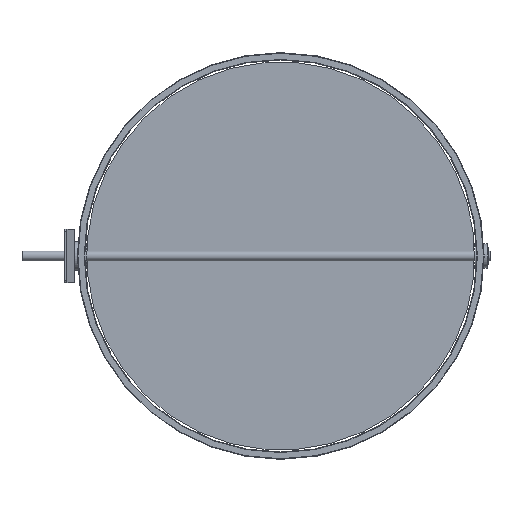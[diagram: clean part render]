
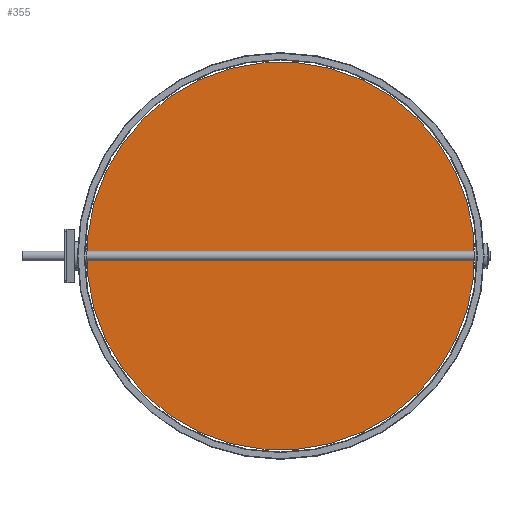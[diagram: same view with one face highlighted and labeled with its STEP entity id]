
A CAD part, left-side view. The second image highlights one B-rep face of the part: STEP entity #355.
In plain terms, the highlighted planar face has unit normal (-1, 0, 0).
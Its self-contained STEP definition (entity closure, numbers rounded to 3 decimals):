
#137=FACE_BOUND('',#507,.T.);
#138=FACE_BOUND('',#508,.T.);
#139=FACE_BOUND('',#509,.T.);
#140=FACE_BOUND('',#510,.T.);
#141=FACE_BOUND('',#511,.T.);
#142=FACE_BOUND('',#512,.T.);
#143=FACE_BOUND('',#513,.T.);
#144=FACE_BOUND('',#514,.T.);
#273=CIRCLE('',#1200,396.);
#274=CIRCLE('',#1203,4.05);
#276=CIRCLE('',#1206,4.05);
#278=CIRCLE('',#1209,4.05);
#280=CIRCLE('',#1212,4.05);
#282=CIRCLE('',#1215,4.05);
#284=CIRCLE('',#1218,4.05);
#287=CIRCLE('',#1222,396.);
#288=CIRCLE('',#1224,4.05);
#355=ADVANCED_FACE('',(#137,#138,#139,#140,#141,#142,#143,#144),#425,.T.);
#425=PLANE('',#1227);
#507=EDGE_LOOP('',(#663,#664,#665,#666));
#508=EDGE_LOOP('',(#667));
#509=EDGE_LOOP('',(#668));
#510=EDGE_LOOP('',(#669));
#511=EDGE_LOOP('',(#670));
#512=EDGE_LOOP('',(#671));
#513=EDGE_LOOP('',(#672));
#514=EDGE_LOOP('',(#673));
#663=ORIENTED_EDGE('',*,*,#1000,.T.);
#664=ORIENTED_EDGE('',*,*,#979,.T.);
#665=ORIENTED_EDGE('',*,*,#983,.T.);
#666=ORIENTED_EDGE('',*,*,#986,.T.);
#667=ORIENTED_EDGE('',*,*,#997,.T.);
#668=ORIENTED_EDGE('',*,*,#995,.F.);
#669=ORIENTED_EDGE('',*,*,#993,.F.);
#670=ORIENTED_EDGE('',*,*,#991,.F.);
#671=ORIENTED_EDGE('',*,*,#989,.F.);
#672=ORIENTED_EDGE('',*,*,#987,.F.);
#673=ORIENTED_EDGE('',*,*,#1001,.F.);
#883=VERTEX_POINT('',#1706);
#884=VERTEX_POINT('',#1708);
#886=VERTEX_POINT('',#1714);
#888=VERTEX_POINT('',#1720);
#889=VERTEX_POINT('',#1724);
#891=VERTEX_POINT('',#1729);
#893=VERTEX_POINT('',#1734);
#895=VERTEX_POINT('',#1739);
#897=VERTEX_POINT('',#1744);
#899=VERTEX_POINT('',#1749);
#901=VERTEX_POINT('',#1757);
#979=EDGE_CURVE('',#884,#883,#1103,.T.);
#983=EDGE_CURVE('',#883,#886,#273,.T.);
#986=EDGE_CURVE('',#886,#888,#1108,.T.);
#987=EDGE_CURVE('',#889,#889,#274,.T.);
#989=EDGE_CURVE('',#891,#891,#276,.T.);
#991=EDGE_CURVE('',#893,#893,#278,.T.);
#993=EDGE_CURVE('',#895,#895,#280,.T.);
#995=EDGE_CURVE('',#897,#897,#282,.T.);
#997=EDGE_CURVE('',#899,#899,#284,.T.);
#1000=EDGE_CURVE('',#888,#884,#287,.T.);
#1001=EDGE_CURVE('',#901,#901,#288,.T.);
#1103=LINE('',#1707,#1151);
#1108=LINE('',#1721,#1156);
#1151=VECTOR('',#1353,1.);
#1156=VECTOR('',#1366,1.);
#1200=AXIS2_PLACEMENT_3D('',#1715,#1360,#1361);
#1203=AXIS2_PLACEMENT_3D('',#1723,#1369,#1370);
#1206=AXIS2_PLACEMENT_3D('',#1728,#1375,#1376);
#1209=AXIS2_PLACEMENT_3D('',#1733,#1381,#1382);
#1212=AXIS2_PLACEMENT_3D('',#1738,#1387,#1388);
#1215=AXIS2_PLACEMENT_3D('',#1743,#1393,#1394);
#1218=AXIS2_PLACEMENT_3D('',#1748,#1399,#1400);
#1222=AXIS2_PLACEMENT_3D('',#1754,#1407,#1408);
#1224=AXIS2_PLACEMENT_3D('',#1756,#1411,#1412);
#1227=AXIS2_PLACEMENT_3D('',#1761,#1417,#1418);
#1353=DIRECTION('',(0.,0.,1.));
#1360=DIRECTION('',(-1.,0.,0.));
#1361=DIRECTION('',(0.,0.,1.));
#1366=DIRECTION('',(0.,0.,-1.));
#1369=DIRECTION('',(-1.,0.,0.));
#1370=DIRECTION('',(0.,0.,1.));
#1375=DIRECTION('',(-1.,0.,0.));
#1376=DIRECTION('',(0.,0.,1.));
#1381=DIRECTION('',(-1.,0.,0.));
#1382=DIRECTION('',(0.,0.,1.));
#1387=DIRECTION('',(-1.,0.,0.));
#1388=DIRECTION('',(0.,0.,1.));
#1393=DIRECTION('',(-1.,0.,0.));
#1394=DIRECTION('',(0.,0.,1.));
#1399=DIRECTION('',(1.,0.,0.));
#1400=DIRECTION('',(0.,0.,1.));
#1407=DIRECTION('',(-1.,0.,0.));
#1408=DIRECTION('',(0.,0.,1.));
#1411=DIRECTION('',(-1.,0.,0.));
#1412=DIRECTION('',(0.,0.,1.));
#1417=DIRECTION('',(-1.,0.,0.));
#1418=DIRECTION('',(0.,0.,1.));
#1706=CARTESIAN_POINT('',(-0.5,-503.,164.749));
#1707=CARTESIAN_POINT('',(-0.5,-503.,85.251));
#1708=CARTESIAN_POINT('',(-0.5,-503.,85.251));
#1714=CARTESIAN_POINT('',(-0.5,285.,164.749));
#1715=CARTESIAN_POINT('',(-0.5,-109.,125.));
#1720=CARTESIAN_POINT('',(-0.5,285.,85.251));
#1721=CARTESIAN_POINT('',(-0.5,285.,164.749));
#1723=CARTESIAN_POINT('',(-0.5,231.,125.));
#1724=CARTESIAN_POINT('',(-0.5,231.,129.05));
#1728=CARTESIAN_POINT('',(-0.5,-449.,125.));
#1729=CARTESIAN_POINT('',(-0.5,-449.,129.05));
#1733=CARTESIAN_POINT('',(-0.5,61.,125.));
#1734=CARTESIAN_POINT('',(-0.5,61.,129.05));
#1738=CARTESIAN_POINT('',(-0.5,-279.,125.));
#1739=CARTESIAN_POINT('',(-0.5,-279.,129.05));
#1743=CARTESIAN_POINT('',(-0.5,-109.,125.));
#1744=CARTESIAN_POINT('',(-0.5,-109.,129.05));
#1748=CARTESIAN_POINT('',(-0.5,-479.,125.));
#1749=CARTESIAN_POINT('',(-0.5,-479.,129.05));
#1754=CARTESIAN_POINT('',(-0.5,-109.,125.));
#1756=CARTESIAN_POINT('',(-0.5,261.,125.));
#1757=CARTESIAN_POINT('',(-0.5,261.,129.05));
#1761=CARTESIAN_POINT('',(-0.5,-109.,125.));
